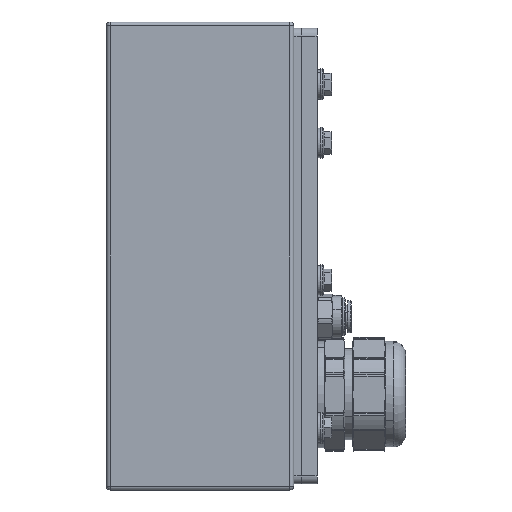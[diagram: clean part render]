
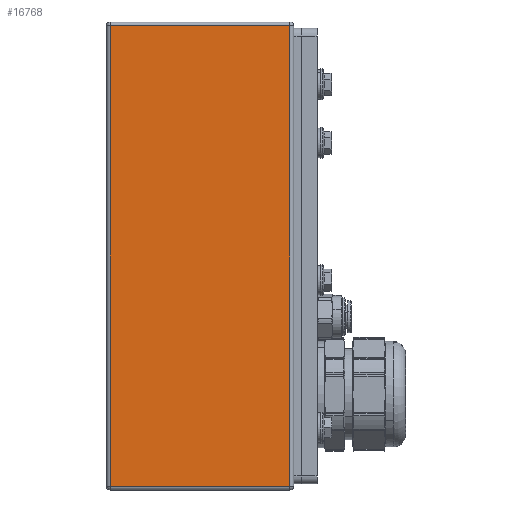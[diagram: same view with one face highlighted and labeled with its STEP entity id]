
A CAD part, left-side view. The second image highlights one B-rep face of the part: STEP entity #16768.
In plain terms, the highlighted planar face has unit normal (-1, 0, 0).
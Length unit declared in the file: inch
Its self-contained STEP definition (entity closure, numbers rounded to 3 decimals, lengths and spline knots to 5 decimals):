
#481 = LINE ( 'NONE', #33779, #40782 ) ;
#641 = CARTESIAN_POINT ( 'NONE',  ( -1.5, 2.94, -7.44 ) ) ;
#1428 = VECTOR ( 'NONE', #45423, 39.37008 ) ;
#2282 = EDGE_CURVE ( 'NONE', #3282, #25136, #34966, .T. ) ;
#3032 = CARTESIAN_POINT ( 'NONE',  ( -1.5, 0.06, -0.06 ) ) ;
#3282 = VERTEX_POINT ( 'NONE', #18550 ) ;
#4028 = PLANE ( 'NONE',  #41605 ) ;
#4182 = VERTEX_POINT ( 'NONE', #641 ) ;
#5199 = EDGE_CURVE ( 'NONE', #33204, #4182, #44599, .T. ) ;
#5454 = ORIENTED_EDGE ( 'NONE', *, *, #15909, .T. ) ;
#8359 = CARTESIAN_POINT ( 'NONE',  ( -1.5, 3., -7.5 ) ) ;
#9232 = CARTESIAN_POINT ( 'NONE',  ( -1.5, 3., -0.06 ) ) ;
#10069 = CARTESIAN_POINT ( 'NONE',  ( -1.5, 0.06, -7.5 ) ) ;
#10516 = VECTOR ( 'NONE', #21200, 39.37008 ) ;
#11267 = DIRECTION ( 'NONE',  ( 0., 0., -1. ) ) ;
#12272 = ORIENTED_EDGE ( 'NONE', *, *, #24668, .T. ) ;
#14815 = CARTESIAN_POINT ( 'NONE',  ( -1.5, 2.94, -0.06 ) ) ;
#15909 = EDGE_CURVE ( 'NONE', #25136, #33204, #41356, .T. ) ;
#16768 = ADVANCED_FACE ( 'NONE', ( #22150 ), #4028, .F. ) ;
#16833 = ORIENTED_EDGE ( 'NONE', *, *, #5199, .T. ) ;
#18550 = CARTESIAN_POINT ( 'NONE',  ( -1.5, 0.06, -7.44 ) ) ;
#21200 = DIRECTION ( 'NONE',  ( 0., 0., 1. ) ) ;
#22150 = FACE_OUTER_BOUND ( 'NONE', #22256, .T. ) ;
#22256 = EDGE_LOOP ( 'NONE', ( #16833, #12272, #38270, #5454 ) ) ;
#24668 = EDGE_CURVE ( 'NONE', #4182, #3282, #481, .T. ) ;
#25136 = VERTEX_POINT ( 'NONE', #3032 ) ;
#25817 = CARTESIAN_POINT ( 'NONE',  ( -1.5, 2.94, -7.5 ) ) ;
#30311 = DIRECTION ( 'NONE',  ( 1., 0., 0. ) ) ;
#33204 = VERTEX_POINT ( 'NONE', #14815 ) ;
#33779 = CARTESIAN_POINT ( 'NONE',  ( -1.5, 3., -7.44 ) ) ;
#34966 = LINE ( 'NONE', #10069, #10516 ) ;
#38270 = ORIENTED_EDGE ( 'NONE', *, *, #2282, .T. ) ;
#40782 = VECTOR ( 'NONE', #41473, 39.37008 ) ;
#40821 = VECTOR ( 'NONE', #41007, 39.37008 ) ;
#41007 = DIRECTION ( 'NONE',  ( 0., 0., -1. ) ) ;
#41356 = LINE ( 'NONE', #9232, #1428 ) ;
#41473 = DIRECTION ( 'NONE',  ( 0., -1., 0. ) ) ;
#41605 = AXIS2_PLACEMENT_3D ( 'NONE', #8359, #30311, #11267 ) ;
#44599 = LINE ( 'NONE', #25817, #40821 ) ;
#45423 = DIRECTION ( 'NONE',  ( 0., 1., 0. ) ) ;
